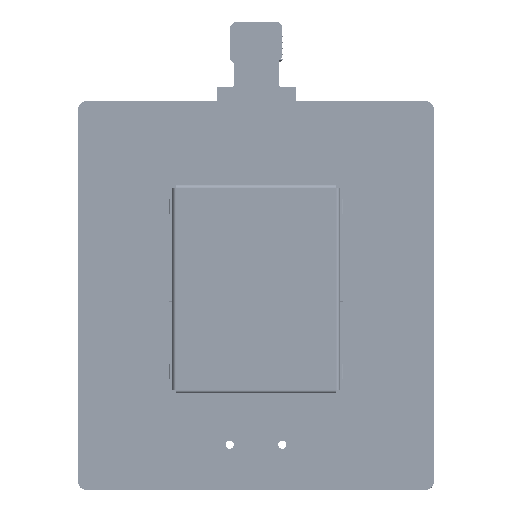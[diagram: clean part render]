
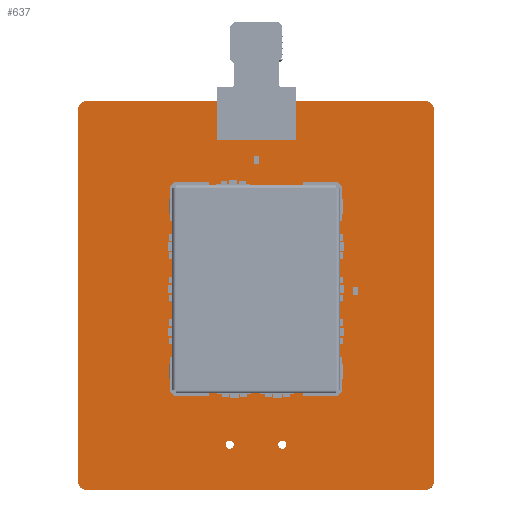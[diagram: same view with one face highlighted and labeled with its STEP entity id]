
A CAD part, top view. The second image highlights one B-rep face of the part: STEP entity #637.
In plain terms, the highlighted planar face has unit normal (0, 0, 1).
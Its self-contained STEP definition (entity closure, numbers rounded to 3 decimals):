
#300 = VERTEX_POINT('',#301);
#301 = CARTESIAN_POINT('',(0.,1.,1.56));
#307 = EDGE_CURVE('',#300,#308,#310,.T.);
#308 = VERTEX_POINT('',#309);
#309 = CARTESIAN_POINT('',(1.,0.,1.56));
#310 = CIRCLE('',#311,1.);
#311 = AXIS2_PLACEMENT_3D('',#312,#313,#314);
#312 = CARTESIAN_POINT('',(1.,1.,1.56));
#313 = DIRECTION('',(0.,0.,1.));
#314 = DIRECTION('',(-1.,0.,0.));
#340 = EDGE_CURVE('',#308,#341,#343,.T.);
#341 = VERTEX_POINT('',#342);
#342 = CARTESIAN_POINT('',(42.,0.,1.56));
#343 = LINE('',#344,#345);
#344 = CARTESIAN_POINT('',(1.,0.,1.56));
#345 = VECTOR('',#346,1.);
#346 = DIRECTION('',(1.,0.,0.));
#371 = EDGE_CURVE('',#341,#372,#374,.T.);
#372 = VERTEX_POINT('',#373);
#373 = CARTESIAN_POINT('',(43.,1.,1.56));
#374 = CIRCLE('',#375,1.);
#375 = AXIS2_PLACEMENT_3D('',#376,#377,#378);
#376 = CARTESIAN_POINT('',(42.,1.,1.56));
#377 = DIRECTION('',(0.,0.,1.));
#378 = DIRECTION('',(0.,-1.,0.));
#404 = EDGE_CURVE('',#372,#405,#407,.T.);
#405 = VERTEX_POINT('',#406);
#406 = CARTESIAN_POINT('',(43.,46.,1.56));
#407 = LINE('',#408,#409);
#408 = CARTESIAN_POINT('',(43.,1.,1.56));
#409 = VECTOR('',#410,1.);
#410 = DIRECTION('',(0.,1.,0.));
#435 = EDGE_CURVE('',#405,#436,#438,.T.);
#436 = VERTEX_POINT('',#437);
#437 = CARTESIAN_POINT('',(42.,47.,1.56));
#438 = CIRCLE('',#439,1.);
#439 = AXIS2_PLACEMENT_3D('',#440,#441,#442);
#440 = CARTESIAN_POINT('',(42.,46.,1.56));
#441 = DIRECTION('',(0.,0.,1.));
#442 = DIRECTION('',(1.,0.,-0.));
#468 = EDGE_CURVE('',#436,#469,#471,.T.);
#469 = VERTEX_POINT('',#470);
#470 = CARTESIAN_POINT('',(1.,47.,1.56));
#471 = LINE('',#472,#473);
#472 = CARTESIAN_POINT('',(42.,47.,1.56));
#473 = VECTOR('',#474,1.);
#474 = DIRECTION('',(-1.,0.,0.));
#499 = EDGE_CURVE('',#469,#500,#502,.T.);
#500 = VERTEX_POINT('',#501);
#501 = CARTESIAN_POINT('',(0.,46.,1.56));
#502 = CIRCLE('',#503,1.);
#503 = AXIS2_PLACEMENT_3D('',#504,#505,#506);
#504 = CARTESIAN_POINT('',(1.,46.,1.56));
#505 = DIRECTION('',(0.,0.,1.));
#506 = DIRECTION('',(0.,1.,0.));
#532 = EDGE_CURVE('',#500,#300,#533,.T.);
#533 = LINE('',#534,#535);
#534 = CARTESIAN_POINT('',(0.,46.,1.56));
#535 = VECTOR('',#536,1.);
#536 = DIRECTION('',(0.,-1.,0.));
#556 = VERTEX_POINT('',#557);
#557 = CARTESIAN_POINT('',(18.825,5.465,1.56));
#563 = EDGE_CURVE('',#556,#556,#564,.T.);
#564 = CIRCLE('',#565,0.5);
#565 = AXIS2_PLACEMENT_3D('',#566,#567,#568);
#566 = CARTESIAN_POINT('',(18.325,5.465,1.56));
#567 = DIRECTION('',(0.,0.,1.));
#568 = DIRECTION('',(1.,0.,-0.));
#589 = VERTEX_POINT('',#590);
#590 = CARTESIAN_POINT('',(25.175,5.465,1.56));
#596 = EDGE_CURVE('',#589,#589,#597,.T.);
#597 = CIRCLE('',#598,0.5);
#598 = AXIS2_PLACEMENT_3D('',#599,#600,#601);
#599 = CARTESIAN_POINT('',(24.675,5.465,1.56));
#600 = DIRECTION('',(0.,0.,1.));
#601 = DIRECTION('',(1.,0.,-0.));
#637 = ADVANCED_FACE('',(#638,#648,#651),#654,.T.);
#638 = FACE_BOUND('',#639,.T.);
#639 = EDGE_LOOP('',(#640,#641,#642,#643,#644,#645,#646,#647));
#640 = ORIENTED_EDGE('',*,*,#307,.T.);
#641 = ORIENTED_EDGE('',*,*,#340,.T.);
#642 = ORIENTED_EDGE('',*,*,#371,.T.);
#643 = ORIENTED_EDGE('',*,*,#404,.T.);
#644 = ORIENTED_EDGE('',*,*,#435,.T.);
#645 = ORIENTED_EDGE('',*,*,#468,.T.);
#646 = ORIENTED_EDGE('',*,*,#499,.T.);
#647 = ORIENTED_EDGE('',*,*,#532,.T.);
#648 = FACE_BOUND('',#649,.T.);
#649 = EDGE_LOOP('',(#650));
#650 = ORIENTED_EDGE('',*,*,#563,.F.);
#651 = FACE_BOUND('',#652,.T.);
#652 = EDGE_LOOP('',(#653));
#653 = ORIENTED_EDGE('',*,*,#596,.F.);
#654 = PLANE('',#655);
#655 = AXIS2_PLACEMENT_3D('',#656,#657,#658);
#656 = CARTESIAN_POINT('',(21.5,23.5,1.56));
#657 = DIRECTION('',(0.,0.,1.));
#658 = DIRECTION('',(1.,0.,-0.));
